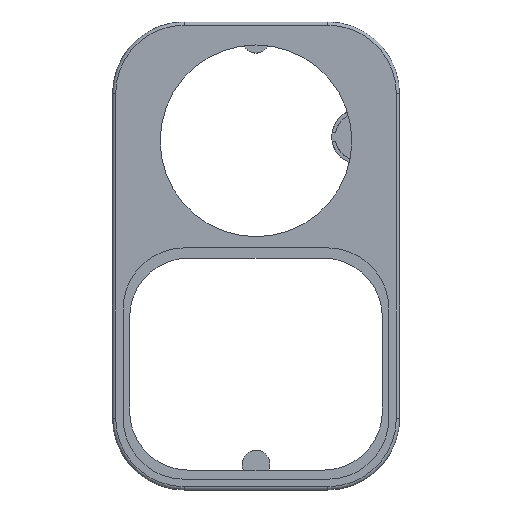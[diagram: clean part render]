
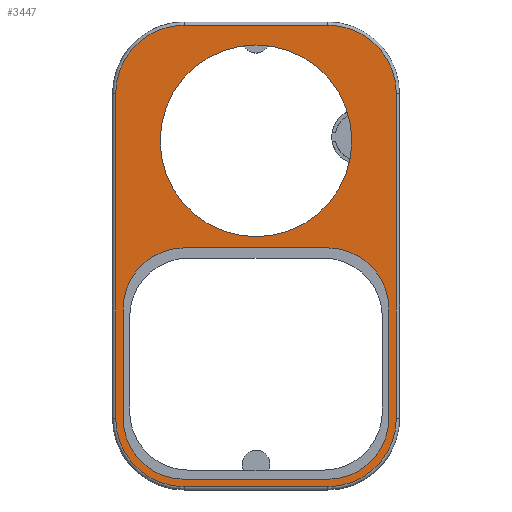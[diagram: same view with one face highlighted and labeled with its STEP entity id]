
A CAD part, top view. The second image highlights one B-rep face of the part: STEP entity #3447.
In plain terms, the highlighted planar face has unit normal (0, 0, 1).
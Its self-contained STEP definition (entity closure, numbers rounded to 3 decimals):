
#2789 = VERTEX_POINT('',#2790);
#2790 = CARTESIAN_POINT('',(0.55,12.5,12.3));
#2799 = VERTEX_POINT('',#2800);
#2800 = CARTESIAN_POINT('',(12.5,0.55,12.3));
#2807 = EDGE_CURVE('',#2789,#2799,#2808,.T.);
#2808 = CIRCLE('',#2809,11.95);
#2809 = AXIS2_PLACEMENT_3D('',#2810,#2811,#2812);
#2810 = CARTESIAN_POINT('',(12.5,12.5,12.3));
#2811 = DIRECTION('',(0.,0.,1.));
#2812 = DIRECTION('',(-1.,0.,0.));
#2823 = VERTEX_POINT('',#2824);
#2824 = CARTESIAN_POINT('',(0.55,69.,12.3));
#2831 = EDGE_CURVE('',#2823,#2789,#2832,.T.);
#2832 = LINE('',#2833,#2834);
#2833 = CARTESIAN_POINT('',(0.55,69.,12.3));
#2834 = VECTOR('',#2835,1.);
#2835 = DIRECTION('',(-0.,-1.,-0.));
#2848 = VERTEX_POINT('',#2849);
#2849 = CARTESIAN_POINT('',(12.5,80.95,12.3));
#2858 = EDGE_CURVE('',#2848,#2823,#2859,.T.);
#2859 = CIRCLE('',#2860,11.95);
#2860 = AXIS2_PLACEMENT_3D('',#2861,#2862,#2863);
#2861 = CARTESIAN_POINT('',(12.5,69.,12.3));
#2862 = DIRECTION('',(0.,-0.,1.));
#2863 = DIRECTION('',(0.,1.,0.));
#2874 = VERTEX_POINT('',#2875);
#2875 = CARTESIAN_POINT('',(37.5,80.95,12.3));
#2882 = EDGE_CURVE('',#2874,#2848,#2883,.T.);
#2883 = LINE('',#2884,#2885);
#2884 = CARTESIAN_POINT('',(37.5,80.95,12.3));
#2885 = VECTOR('',#2886,1.);
#2886 = DIRECTION('',(-1.,-0.,-0.));
#2899 = VERTEX_POINT('',#2900);
#2900 = CARTESIAN_POINT('',(49.45,69.,12.3));
#2909 = EDGE_CURVE('',#2899,#2874,#2910,.T.);
#2910 = CIRCLE('',#2911,11.95);
#2911 = AXIS2_PLACEMENT_3D('',#2912,#2913,#2914);
#2912 = CARTESIAN_POINT('',(37.5,69.,12.3));
#2913 = DIRECTION('',(0.,0.,1.));
#2914 = DIRECTION('',(1.,0.,0.));
#2925 = VERTEX_POINT('',#2926);
#2926 = CARTESIAN_POINT('',(49.45,12.5,12.3));
#2933 = EDGE_CURVE('',#2925,#2899,#2934,.T.);
#2934 = LINE('',#2935,#2936);
#2935 = CARTESIAN_POINT('',(49.45,12.5,12.3));
#2936 = VECTOR('',#2937,1.);
#2937 = DIRECTION('',(0.,1.,0.));
#2950 = VERTEX_POINT('',#2951);
#2951 = CARTESIAN_POINT('',(37.5,0.55,12.3));
#2960 = EDGE_CURVE('',#2950,#2925,#2961,.T.);
#2961 = CIRCLE('',#2962,11.95);
#2962 = AXIS2_PLACEMENT_3D('',#2963,#2964,#2965);
#2963 = CARTESIAN_POINT('',(37.5,12.5,12.3));
#2964 = DIRECTION('',(-0.,0.,1.));
#2965 = DIRECTION('',(0.,-1.,0.));
#2976 = EDGE_CURVE('',#2799,#2950,#2977,.T.);
#2977 = LINE('',#2978,#2979);
#2978 = CARTESIAN_POINT('',(12.5,0.55,12.3));
#2979 = VECTOR('',#2980,1.);
#2980 = DIRECTION('',(1.,0.,0.));
#3131 = VERTEX_POINT('',#3132);
#3132 = CARTESIAN_POINT('',(12.5,1.85,12.3));
#3140 = VERTEX_POINT('',#3141);
#3141 = CARTESIAN_POINT('',(1.85,12.5,12.3));
#3147 = EDGE_CURVE('',#3131,#3140,#3148,.T.);
#3148 = CIRCLE('',#3149,10.65);
#3149 = AXIS2_PLACEMENT_3D('',#3150,#3151,#3152);
#3150 = CARTESIAN_POINT('',(12.5,12.5,12.3));
#3151 = DIRECTION('',(0.,0.,-1.));
#3152 = DIRECTION('',(1.,0.,0.));
#3165 = VERTEX_POINT('',#3166);
#3166 = CARTESIAN_POINT('',(1.85,31.5,12.3));
#3172 = EDGE_CURVE('',#3140,#3165,#3173,.T.);
#3173 = LINE('',#3174,#3175);
#3174 = CARTESIAN_POINT('',(1.85,26.625,12.3));
#3175 = VECTOR('',#3176,1.);
#3176 = DIRECTION('',(0.,1.,0.));
#3188 = EDGE_CURVE('',#3189,#3131,#3191,.T.);
#3189 = VERTEX_POINT('',#3190);
#3190 = CARTESIAN_POINT('',(37.5,1.85,12.3));
#3191 = LINE('',#3192,#3193);
#3192 = CARTESIAN_POINT('',(18.75,1.85,12.3));
#3193 = VECTOR('',#3194,1.);
#3194 = DIRECTION('',(-1.,0.,0.));
#3212 = VERTEX_POINT('',#3213);
#3213 = CARTESIAN_POINT('',(12.5,42.15,12.3));
#3219 = EDGE_CURVE('',#3165,#3212,#3220,.T.);
#3220 = CIRCLE('',#3221,10.65);
#3221 = AXIS2_PLACEMENT_3D('',#3222,#3223,#3224);
#3222 = CARTESIAN_POINT('',(12.5,31.5,12.3));
#3223 = DIRECTION('',(0.,0.,-1.));
#3224 = DIRECTION('',(1.,0.,0.));
#3236 = VERTEX_POINT('',#3237);
#3237 = CARTESIAN_POINT('',(48.15,12.5,12.3));
#3245 = EDGE_CURVE('',#3236,#3189,#3246,.T.);
#3246 = CIRCLE('',#3247,10.65);
#3247 = AXIS2_PLACEMENT_3D('',#3248,#3249,#3250);
#3248 = CARTESIAN_POINT('',(37.5,12.5,12.3));
#3249 = DIRECTION('',(0.,0.,-1.));
#3250 = DIRECTION('',(1.,0.,0.));
#3262 = EDGE_CURVE('',#3263,#3212,#3265,.T.);
#3263 = VERTEX_POINT('',#3264);
#3264 = CARTESIAN_POINT('',(37.5,42.15,12.3));
#3265 = LINE('',#3266,#3267);
#3266 = CARTESIAN_POINT('',(18.75,42.15,12.3));
#3267 = VECTOR('',#3268,1.);
#3268 = DIRECTION('',(-1.,0.,0.));
#3287 = VERTEX_POINT('',#3288);
#3288 = CARTESIAN_POINT('',(48.15,31.5,12.3));
#3294 = EDGE_CURVE('',#3236,#3287,#3295,.T.);
#3295 = LINE('',#3296,#3297);
#3296 = CARTESIAN_POINT('',(48.15,26.625,12.3));
#3297 = VECTOR('',#3298,1.);
#3298 = DIRECTION('',(0.,1.,0.));
#3310 = EDGE_CURVE('',#3263,#3287,#3311,.T.);
#3311 = CIRCLE('',#3312,10.65);
#3312 = AXIS2_PLACEMENT_3D('',#3313,#3314,#3315);
#3313 = CARTESIAN_POINT('',(37.5,31.5,12.3));
#3314 = DIRECTION('',(0.,0.,-1.));
#3315 = DIRECTION('',(1.,0.,0.));
#3378 = VERTEX_POINT('',#3379);
#3379 = CARTESIAN_POINT('',(41.7,60.8,12.3));
#3385 = EDGE_CURVE('',#3378,#3378,#3386,.T.);
#3386 = CIRCLE('',#3387,16.7);
#3387 = AXIS2_PLACEMENT_3D('',#3388,#3389,#3390);
#3388 = CARTESIAN_POINT('',(25.,60.8,12.3));
#3389 = DIRECTION('',(0.,0.,-1.));
#3390 = DIRECTION('',(1.,0.,0.));
#3447 = ADVANCED_FACE('',(#3448,#3458,#3468),#3471,.T.);
#3448 = FACE_BOUND('',#3449,.T.);
#3449 = EDGE_LOOP('',(#3450,#3451,#3452,#3453,#3454,#3455,#3456,#3457));
#3450 = ORIENTED_EDGE('',*,*,#2807,.T.);
#3451 = ORIENTED_EDGE('',*,*,#2976,.T.);
#3452 = ORIENTED_EDGE('',*,*,#2960,.T.);
#3453 = ORIENTED_EDGE('',*,*,#2933,.T.);
#3454 = ORIENTED_EDGE('',*,*,#2909,.T.);
#3455 = ORIENTED_EDGE('',*,*,#2882,.T.);
#3456 = ORIENTED_EDGE('',*,*,#2858,.T.);
#3457 = ORIENTED_EDGE('',*,*,#2831,.T.);
#3458 = FACE_BOUND('',#3459,.T.);
#3459 = EDGE_LOOP('',(#3460,#3461,#3462,#3463,#3464,#3465,#3466,#3467));
#3460 = ORIENTED_EDGE('',*,*,#3188,.T.);
#3461 = ORIENTED_EDGE('',*,*,#3147,.T.);
#3462 = ORIENTED_EDGE('',*,*,#3172,.T.);
#3463 = ORIENTED_EDGE('',*,*,#3219,.T.);
#3464 = ORIENTED_EDGE('',*,*,#3262,.F.);
#3465 = ORIENTED_EDGE('',*,*,#3310,.T.);
#3466 = ORIENTED_EDGE('',*,*,#3294,.F.);
#3467 = ORIENTED_EDGE('',*,*,#3245,.T.);
#3468 = FACE_BOUND('',#3469,.T.);
#3469 = EDGE_LOOP('',(#3470));
#3470 = ORIENTED_EDGE('',*,*,#3385,.T.);
#3471 = PLANE('',#3472);
#3472 = AXIS2_PLACEMENT_3D('',#3473,#3474,#3475);
#3473 = CARTESIAN_POINT('',(25.,40.75,12.3));
#3474 = DIRECTION('',(0.,0.,1.));
#3475 = DIRECTION('',(1.,0.,0.));
